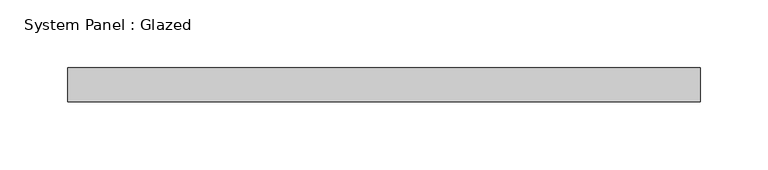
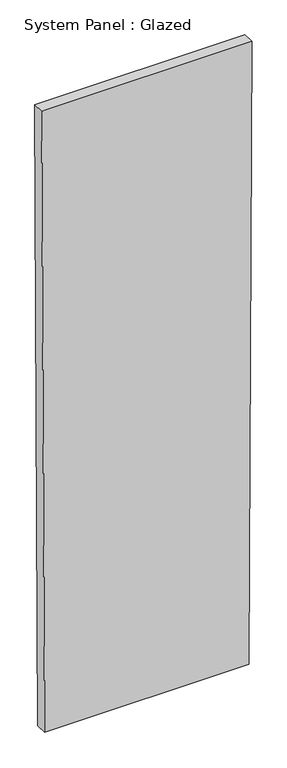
"""IFC4 building model written with IfcOpenShell, lengths in millimetres: plate geometry, System Panel : Glazed."""

from ifc_helpers import new_model, si_unit, frame, origin, place, context, project, spatial, polyline, outline, extrude, source, transform, mapped, element, save


def system_panel_glazed_fd8bc869(model_context):
    return source(origin(), model_context, "Body", "SweptSolid", [
        extrude(outline(polyline([(0.0, -227.0676563), (0.0, 227.0676563), (1460.4833681, 233.8909513), (1460.4833681, -233.8909513), (0.0, -227.0676563)])), frame((0.0, 19.05, 0.0), z_axis=(0.0, 1.0, 0.0), x_axis=(0.0, 0.0, 1.0)), (0.0, 0.0, 1.0), 25.4),
    ])


if __name__ == "__main__":
    model = new_model("IFC4")
    model_context = context("Model", 3, world=origin())
    ifc_project = project(units=[si_unit("LENGTHUNIT", "METRE", prefix="MILLI")], contexts=[model_context])
    site = spatial("IfcSite", under=ifc_project)
    building = spatial("IfcBuilding", under=site)
    placement = place(None, origin())
    system_panel_glazed_shape = system_panel_glazed_fd8bc869(model_context)
    element("IfcPlate", 1, ObjectType="System Panel : Glazed", at=placement, inside=building, context=model_context, shape_type="MappedRepresentation", body=[
        mapped(system_panel_glazed_shape, transform((0.0, 0.0, 0.0), x_axis=(1.0, 0.0, 0.0), y_axis=(0.0, 1.0, 0.0), z_axis=(0.0, 0.0, 1.0))),
    ])
    save(model, "model.ifc")
